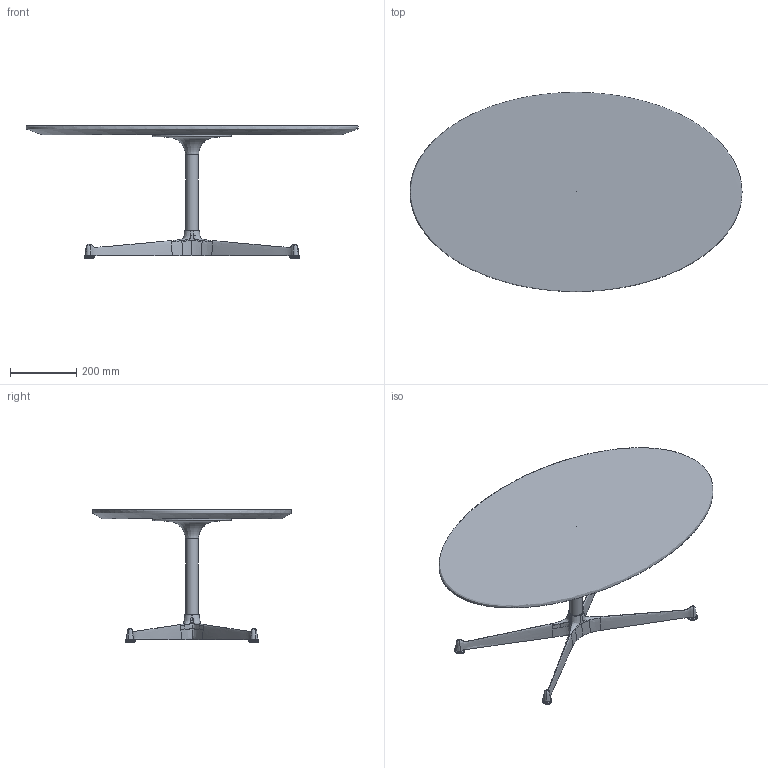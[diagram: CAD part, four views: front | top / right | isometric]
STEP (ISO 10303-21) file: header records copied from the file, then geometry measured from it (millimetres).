
FILE_DESCRIPTION(/* description */ (''),/* implementation_level */ '2;1');
FILE_NAME(/* name */ 'KINOSH~1',/* time_stamp */ '2020-12-08T09:54:01+09:00',/* author */ (''),/* organization */ (''),/* preprocessor_version */ 'ST-DEVELOPER v16.5',/* originating_system */ '',/* authorisation */ '');
FILE_SCHEMA (('AUTOMOTIVE_DESIGN'));
Length unit declared in the file: millimetre
Products named in the file (1): Document
Bounding box: 1000 x 600 x 400 mm (x, y, z)
Volume: 18432215.2 mm3; surface area: 1259365.3 mm2
Topology: 8 solids, 8 shells, 111 faces, 268 edges, 162 vertices
Faces by surface type: bspline 95, plane 16
Entity records: 19971 total; most frequent: CARTESIAN_POINT 18299, ORIENTED_EDGE 514, EDGE_CURVE 257, B_SPLINE_CURVE_WITH_KNOTS 179, VERTEX_POINT 162, ADVANCED_FACE 111, FACE_OUTER_BOUND 111, EDGE_LOOP 111
